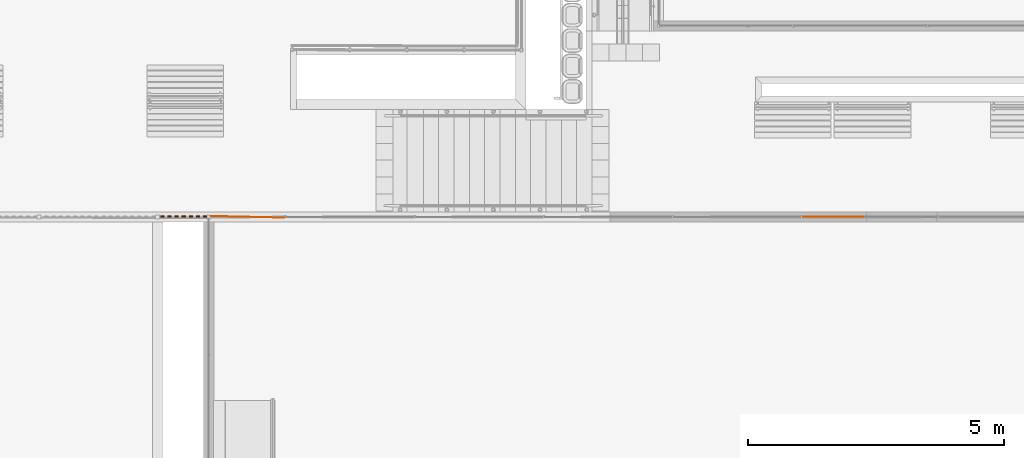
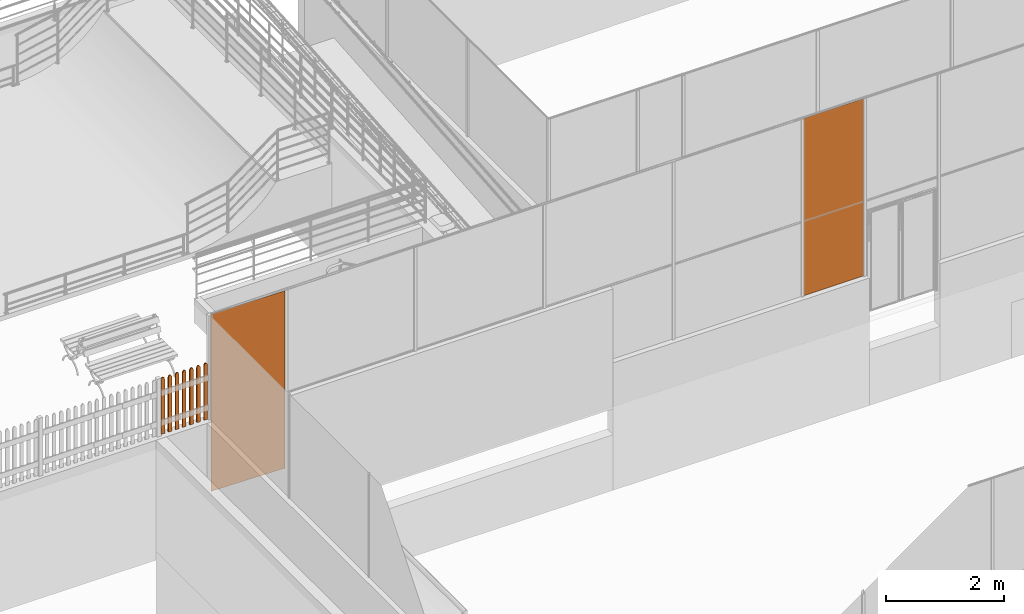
# One storey, part 212 of 237: 9 proxies.
"""IFC2X3 building model written with IfcOpenShell, lengths in millimetres."""

from ifc_helpers import new_model, entity, si_unit, converted_unit, derived_unit, money_unit, direction, frame, origin_with_axes, place, context, subcontext, project, spatial, open_shell, faceted_brep, surface_model, type_object, element, save


model = new_model("IFC2X3")

# Units and contexts
model_context = context("Model", 3, precision=0.01, world=origin_with_axes(), true_north=direction((0.0, 1.0)))
body_context = subcontext(model_context, "Body", "Model", "MODEL_VIEW")
ifc_project = project(units=[si_unit("LENGTHUNIT", "METRE", prefix="MILLI"), si_unit("AREAUNIT", "SQUARE_METRE"), si_unit("VOLUMEUNIT", "CUBIC_METRE"), converted_unit("PLANEANGLEUNIT", "DEGREE", entity("IfcPlaneAngleMeasure", 0.0174532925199), si_unit("PLANEANGLEUNIT", "RADIAN"), dimensions=[0, 0, 0, 0, 0, 0, 0]), money_unit("USD"), converted_unit("TIMEUNIT", "Year", entity("IfcTimeMeasure", 31556926.0), si_unit("TIMEUNIT", "SECOND"), dimensions=[0, 0, 1, 0, 0, 0, 0]), si_unit("MASSUNIT", "GRAM", prefix="KILO"), si_unit("THERMODYNAMICTEMPERATUREUNIT", "DEGREE_CELSIUS"), si_unit("LUMINOUSINTENSITYUNIT", "LUMEN"), si_unit("ENERGYUNIT", "JOULE", prefix="MEGA"), derived_unit("THERMALCONDUCTANCEUNIT", [(si_unit("POWERUNIT", "WATT"), 1), (si_unit("LENGTHUNIT", "METRE"), -1), (si_unit("THERMODYNAMICTEMPERATUREUNIT", "KELVIN"), -1)]), derived_unit("SPECIFICHEATCAPACITYUNIT", [(si_unit("ENERGYUNIT", "JOULE"), 1), (si_unit("MASSUNIT", "GRAM", prefix="KILO"), -1), (si_unit("THERMODYNAMICTEMPERATUREUNIT", "KELVIN"), -1)]), derived_unit("MASSDENSITYUNIT", [(si_unit("MASSUNIT", "GRAM", prefix="KILO"), 1), (si_unit("VOLUMEUNIT", "CUBIC_METRE"), -1)])], contexts=[model_context])

# Site, building, storey
site_placement = place(None, origin_with_axes())
site = spatial("IfcSite", under=ifc_project, at=site_placement, Name="Local", CompositionType="ELEMENT")
building_placement = place(site_placement, origin_with_axes())
building = spatial("IfcBuilding", under=site, at=building_placement, Name="Construção", CompositionType="ELEMENT")
storey_placement = place(building_placement, origin_with_axes())
storey = spatial("IfcBuildingStorey", under=building, at=storey_placement, Name="Pavimento Térreo", CompositionType="ELEMENT", Elevation=0.0)

# Proxies
building_element_proxy_type_1 = type_object("IfcBuildingElementProxyType", Name="Tela metalica1", PredefinedType="NOTDEFINED")
proxy_1_placement = place(storey_placement, frame((59511.6965714, 23490.6989077, -2705.59649696), z_axis=(0.0, 0.0, 1.0), x_axis=(0.999352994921, 0.0359665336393, 0.0)))
element("IfcBuildingElementProxy", 1, at=proxy_1_placement, inside=storey, type_object=building_element_proxy_type_1, Name="Objeto-0044", context=body_context, shape_type="SurfaceModel", body=[
    surface_model("IfcShellBasedSurfaceModel", [(1430.0, 0.0, 3672.01860279), (0.0, 84.0423930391, 3672.01860279), (0.0, 84.0423930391, 0.0), (1430.0, 0.0, 0.0)], [open_shell([[[0, 1, 2, 3]]])]),
])
proxy_2_placement = place(storey_placement, frame((71104.0348171, 23474.3617651, -2705.59649696), z_axis=(0.0, 0.0, 1.0), x_axis=(0.997402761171, 0.072025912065, 0.0)))
element("IfcBuildingElementProxy", 2, at=proxy_2_placement, inside=storey, type_object=building_element_proxy_type_1, Name="Objeto-0044", context=body_context, shape_type="SurfaceModel", body=[
    surface_model("IfcShellBasedSurfaceModel", [(1170.0, 0.0, 3672.01860279), (0.0, 84.0423930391, 3672.01860279), (0.0, 84.0423930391, 0.0), (1170.0, 0.0, 0.0)], [open_shell([[[0, 1, 2, 3]]])]),
])
building_element_proxy_type_2 = type_object("IfcBuildingElementProxyType", Name="FALTA", PredefinedType="NOTDEFINED")
proxy_3_placement = place(storey_placement, frame((59431.6965585, 23580.2435218, -1173.86351895), z_axis=(0.0, 0.0, 1.0), x_axis=(-1.0, 0.0, 0.0)))
element("IfcBuildingElementProxy", 3, at=proxy_3_placement, inside=storey, type_object=building_element_proxy_type_2, Name="Objeto-0044", context=body_context, shape_type="Brep", body=[
    faceted_brep([(558.741959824, 0.0, 0.0), (558.741959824, 0.0, 1122.55385596), (558.741959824, 23.3659780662, 1122.55385596), (558.741959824, 23.3659780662, 0.0), (628.644267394, 0.0, 0.0), (628.644267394, 0.0, 1122.55385596), (626.240793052, 0.0, 1135.71018716), (622.099081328, 0.0, 1147.58973535), (616.441654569, 0.0, 1157.55996586), (609.569092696, 0.0, 1165.08790963), (601.848382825, 0.0, 1169.77139955), (593.693113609, 0.0, 1171.36054535), (585.537844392, 0.0, 1169.77139955), (577.817134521, 0.0, 1165.08790963), (570.944572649, 0.0, 1157.55996586), (565.28714589, 0.0, 1147.58973535), (561.145434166, 0.0, 1135.71018716), (561.145434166, 23.3659780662, 1135.71018716), (565.28714589, 23.3659780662, 1147.58973535), (570.944572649, 23.3659780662, 1157.55996586), (577.817134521, 23.3659780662, 1165.08790963), (585.537844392, 23.3659780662, 1169.77139955), (593.693113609, 23.3659780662, 1171.36054535), (601.848382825, 23.3659780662, 1169.77139955), (609.569092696, 23.3659780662, 1165.08790963), (616.441654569, 23.3659780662, 1157.55996586), (622.099081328, 23.3659780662, 1147.58973535), (626.240793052, 23.3659780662, 1135.71018716), (628.644267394, 23.3659780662, 1122.55385596), (628.644267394, 23.3659780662, 0.0)], [[[0, 1, 2, 3]], [[1, 0, 4, 5, 6, 7, 8, 9, 10, 11, 12, 13, 14, 15, 16]], [[1, 16, 17, 2]], [[3, 2, 17, 18, 19, 20, 21, 22, 23, 24, 25, 26, 27, 28, 29]], [[0, 3, 29, 4]], [[5, 4, 29, 28]], [[6, 5, 28, 27]], [[7, 6, 27, 26]], [[25, 8, 7, 26]], [[9, 8, 25, 24]], [[10, 9, 24, 23]], [[11, 10, 23, 22]], [[22, 21, 12, 11]], [[13, 12, 21, 20]], [[14, 13, 20, 19]], [[15, 14, 19, 18]], [[16, 15, 18, 17]]]),
])
proxy_4_placement = place(storey_placement, frame((59431.6965585, 23580.2435218, -1173.86351895), z_axis=(0.0, 0.0, 1.0), x_axis=(-1.0, 0.0, 0.0)))
element("IfcBuildingElementProxy", 4, at=proxy_4_placement, inside=storey, type_object=building_element_proxy_type_2, Name="Objeto-0044", context=body_context, shape_type="Brep", body=[
    faceted_brep([(279.132729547, 0.0, 0.0), (279.132729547, 0.0, 1122.55385596), (279.132729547, 23.3659780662, 1122.55385596), (279.132729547, 23.3659780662, 0.0), (349.035037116, 0.0, 0.0), (349.035037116, 0.0, 1122.55385596), (346.631562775, 0.0, 1135.71018716), (342.489851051, 0.0, 1147.58973535), (336.832424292, 0.0, 1157.55996586), (329.959862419, 0.0, 1165.08790963), (322.239152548, 0.0, 1169.77139955), (314.083883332, 0.0, 1171.36054535), (305.928614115, 0.0, 1169.77139955), (298.207904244, 0.0, 1165.08790963), (291.335342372, 0.0, 1157.55996586), (285.677915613, 0.0, 1147.58973535), (281.536203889, 0.0, 1135.71018716), (281.536203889, 23.3659780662, 1135.71018716), (285.677915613, 23.3659780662, 1147.58973535), (291.335342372, 23.3659780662, 1157.55996586), (298.207904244, 23.3659780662, 1165.08790963), (305.928614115, 23.3659780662, 1169.77139955), (314.083883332, 23.3659780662, 1171.36054535), (322.239152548, 23.3659780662, 1169.77139955), (329.959862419, 23.3659780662, 1165.08790963), (336.832424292, 23.3659780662, 1157.55996586), (342.489851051, 23.3659780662, 1147.58973535), (346.631562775, 23.3659780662, 1135.71018716), (349.035037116, 23.3659780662, 1122.55385596), (349.035037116, 23.3659780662, 0.0)], [[[0, 1, 2, 3]], [[1, 0, 4, 5, 6, 7, 8, 9, 10, 11, 12, 13, 14, 15, 16]], [[1, 16, 17, 2]], [[3, 2, 17, 18, 19, 20, 21, 22, 23, 24, 25, 26, 27, 28, 29]], [[0, 3, 29, 4]], [[5, 4, 29, 28]], [[6, 5, 28, 27]], [[7, 6, 27, 26]], [[25, 8, 7, 26]], [[9, 8, 25, 24]], [[10, 9, 24, 23]], [[22, 11, 10, 23]], [[12, 11, 22, 21]], [[13, 12, 21, 20]], [[14, 13, 20, 19]], [[15, 14, 19, 18]], [[16, 15, 18, 17]]]),
])
proxy_5_placement = place(storey_placement, frame((59431.6965585, 23580.2435218, -1173.86351895), z_axis=(0.0, 0.0, 1.0), x_axis=(-1.0, 0.0, 0.0)))
element("IfcBuildingElementProxy", 5, at=proxy_5_placement, inside=storey, type_object=building_element_proxy_type_2, Name="Objeto-0044", context=body_context, shape_type="Brep", body=[
    faceted_brep([(140.573540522, 0.0, 0.0), (140.573540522, 0.0, 1122.55385596), (140.573540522, 23.3659780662, 1122.55385596), (140.573540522, 23.3659780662, 0.0), (210.475848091, 0.0, 0.0), (210.475848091, 0.0, 1122.55385596), (208.072373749, 0.0, 1135.71018716), (203.930662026, 0.0, 1147.58973535), (198.273235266, 0.0, 1157.55996586), (191.400673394, 0.0, 1165.08790963), (183.679963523, 0.0, 1169.77139955), (175.524694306, 0.0, 1171.36054535), (167.36942509, 0.0, 1169.77139955), (159.648715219, 0.0, 1165.08790963), (152.776153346, 0.0, 1157.55996586), (147.118726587, 0.0, 1147.58973535), (142.977014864, 0.0, 1135.71018716), (142.977014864, 23.3659780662, 1135.71018716), (147.118726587, 23.3659780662, 1147.58973535), (152.776153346, 23.3659780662, 1157.55996586), (159.648715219, 23.3659780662, 1165.08790963), (167.36942509, 23.3659780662, 1169.77139955), (175.524694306, 23.3659780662, 1171.36054535), (183.679963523, 23.3659780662, 1169.77139955), (191.400673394, 23.3659780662, 1165.08790963), (198.273235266, 23.3659780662, 1157.55996586), (203.930662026, 23.3659780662, 1147.58973535), (208.072373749, 23.3659780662, 1135.71018716), (210.475848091, 23.3659780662, 1122.55385596), (210.475848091, 23.3659780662, 0.0)], [[[0, 1, 2, 3]], [[1, 0, 4, 5, 6, 7, 8, 9, 10, 11, 12, 13, 14, 15, 16]], [[1, 16, 17, 2]], [[3, 2, 17, 18, 19, 20, 21, 22, 23, 24, 25, 26, 27, 28, 29]], [[0, 3, 29, 4]], [[5, 4, 29, 28]], [[6, 5, 28, 27]], [[7, 6, 27, 26]], [[25, 8, 7, 26]], [[9, 8, 25, 24]], [[10, 9, 24, 23]], [[22, 11, 10, 23]], [[22, 21, 12, 11]], [[13, 12, 21, 20]], [[14, 13, 20, 19]], [[15, 14, 19, 18]], [[16, 15, 18, 17]]]),
])
proxy_6_placement = place(storey_placement, frame((59431.6965585, 23580.2435218, -1173.86351895), z_axis=(0.0, 0.0, 1.0), x_axis=(-1.0, 0.0, 0.0)))
element("IfcBuildingElementProxy", 6, at=proxy_6_placement, inside=storey, type_object=building_element_proxy_type_2, Name="Objeto-0044", context=body_context, shape_type="Brep", body=[
    faceted_brep([(837.874689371, 0.0, 0.0), (837.874689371, 0.0, 1122.55385596), (837.874689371, 23.3659780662, 1122.55385596), (837.874689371, 23.3659780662, 0.0), (907.776996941, 0.0, 0.0), (907.776996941, 0.0, 1122.55385596), (905.373522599, 0.0, 1135.71018716), (901.231810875, 0.0, 1147.58973535), (895.574384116, 0.0, 1157.55996586), (888.701822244, 0.0, 1165.08790963), (880.981112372, 0.0, 1169.77139955), (872.825843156, 0.0, 1171.36054535), (864.67057394, 0.0, 1169.77139955), (856.949864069, 0.0, 1165.08790963), (850.077302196, 0.0, 1157.55996586), (844.419875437, 0.0, 1147.58973535), (840.278163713, 0.0, 1135.71018716), (840.278163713, 23.3659780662, 1135.71018716), (844.419875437, 23.3659780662, 1147.58973535), (850.077302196, 23.3659780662, 1157.55996586), (856.949864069, 23.3659780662, 1165.08790963), (864.67057394, 23.3659780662, 1169.77139955), (872.825843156, 23.3659780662, 1171.36054535), (880.981112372, 23.3659780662, 1169.77139955), (888.701822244, 23.3659780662, 1165.08790963), (895.574384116, 23.3659780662, 1157.55996586), (901.231810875, 23.3659780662, 1147.58973535), (905.373522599, 23.3659780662, 1135.71018716), (907.776996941, 23.3659780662, 1122.55385596), (907.776996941, 23.3659780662, 0.0)], [[[0, 1, 2, 3]], [[1, 0, 4, 5, 6, 7, 8, 9, 10, 11, 12, 13, 14, 15, 16]], [[1, 16, 17, 2]], [[3, 2, 17, 18, 19, 20, 21, 22, 23, 24, 25, 26, 27, 28, 29]], [[0, 3, 29, 4]], [[5, 4, 29, 28]], [[6, 5, 28, 27]], [[7, 6, 27, 26]], [[25, 8, 7, 26]], [[9, 8, 25, 24]], [[10, 9, 24, 23]], [[11, 10, 23, 22]], [[22, 21, 12, 11]], [[13, 12, 21, 20]], [[14, 13, 20, 19]], [[15, 14, 19, 18]], [[16, 15, 18, 17]]]),
])
proxy_7_placement = place(storey_placement, frame((59431.6965585, 23580.2435218, -1173.86351895), z_axis=(0.0, 0.0, 1.0), x_axis=(-1.0, 0.0, 0.0)))
element("IfcBuildingElementProxy", 7, at=proxy_7_placement, inside=storey, type_object=building_element_proxy_type_2, Name="Objeto-0044", context=body_context, shape_type="Brep", body=[
    faceted_brep([(418.937344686, 0.0, 0.0), (418.937344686, 0.0, 1122.55385596), (418.937344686, 23.3659780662, 1122.55385596), (418.937344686, 23.3659780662, 0.0), (488.839652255, 0.0, 0.0), (488.839652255, 0.0, 1122.55385596), (486.436177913, 0.0, 1135.71018716), (482.29446619, 0.0, 1147.58973535), (476.63703943, 0.0, 1157.55996586), (469.764477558, 0.0, 1165.08790963), (462.043767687, 0.0, 1169.77139955), (453.88849847, 0.0, 1171.36054535), (445.733229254, 0.0, 1169.77139955), (438.012519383, 0.0, 1165.08790963), (431.13995751, 0.0, 1157.55996586), (425.482530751, 0.0, 1147.58973535), (421.340819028, 0.0, 1135.71018716), (421.340819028, 23.3659780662, 1135.71018716), (425.482530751, 23.3659780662, 1147.58973535), (431.13995751, 23.3659780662, 1157.55996586), (438.012519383, 23.3659780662, 1165.08790963), (445.733229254, 23.3659780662, 1169.77139955), (453.88849847, 23.3659780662, 1171.36054535), (462.043767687, 23.3659780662, 1169.77139955), (469.764477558, 23.3659780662, 1165.08790963), (476.63703943, 23.3659780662, 1157.55996586), (482.29446619, 23.3659780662, 1147.58973535), (486.436177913, 23.3659780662, 1135.71018716), (488.839652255, 23.3659780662, 1122.55385596), (488.839652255, 23.3659780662, 0.0)], [[[0, 1, 2, 3]], [[1, 0, 4, 5, 6, 7, 8, 9, 10, 11, 12, 13, 14, 15, 16]], [[1, 16, 17, 2]], [[3, 2, 17, 18, 19, 20, 21, 22, 23, 24, 25, 26, 27, 28, 29]], [[0, 3, 29, 4]], [[5, 4, 29, 28]], [[6, 5, 28, 27]], [[7, 6, 27, 26]], [[25, 8, 7, 26]], [[9, 8, 25, 24]], [[10, 9, 24, 23]], [[22, 11, 10, 23]], [[22, 21, 12, 11]], [[13, 12, 21, 20]], [[14, 13, 20, 19]], [[15, 14, 19, 18]], [[16, 15, 18, 17]]]),
])
proxy_8_placement = place(storey_placement, frame((59431.6965585, 23580.2435218, -1173.86351895), z_axis=(0.0, 0.0, 1.0), x_axis=(-1.0, 0.0, 0.0)))
element("IfcBuildingElementProxy", 8, at=proxy_8_placement, inside=storey, type_object=building_element_proxy_type_2, Name="Objeto-0044", context=body_context, shape_type="Brep", body=[
    faceted_brep([(0.0, 0.0, 0.0), (0.0, 0.0, 1122.55385596), (0.0, 23.3659780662, 1122.55385596), (0.0, 23.3659780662, 0.0), (69.9023075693, 0.0, 0.0), (69.9023075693, 0.0, 1122.55385596), (67.4988332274, 0.0, 1135.71018716), (63.3571215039, 0.0, 1147.58973535), (57.6996947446, 0.0, 1157.55996586), (50.8271328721, 0.0, 1165.08790963), (43.1064230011, 0.0, 1169.77139955), (34.9511537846, 0.0, 1171.36054535), (26.7958845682, 0.0, 1169.77139955), (19.0751746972, 0.0, 1165.08790963), (12.2026128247, 0.0, 1157.55996586), (6.5451860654, 0.0, 1147.58973535), (2.40347434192, 0.0, 1135.71018716), (2.40347434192, 23.3659780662, 1135.71018716), (6.5451860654, 23.3659780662, 1147.58973535), (12.2026128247, 23.3659780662, 1157.55996586), (19.0751746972, 23.3659780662, 1165.08790963), (26.7958845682, 23.3659780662, 1169.77139955), (34.9511537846, 23.3659780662, 1171.36054535), (43.1064230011, 23.3659780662, 1169.77139955), (50.8271328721, 23.3659780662, 1165.08790963), (57.6996947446, 23.3659780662, 1157.55996586), (63.3571215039, 23.3659780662, 1147.58973535), (67.4988332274, 23.3659780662, 1135.71018716), (69.9023075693, 23.3659780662, 1122.55385596), (69.9023075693, 23.3659780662, 0.0)], [[[0, 1, 2, 3]], [[1, 0, 4, 5, 6, 7, 8, 9, 10, 11, 12, 13, 14, 15, 16]], [[1, 16, 17, 2]], [[3, 2, 17, 18, 19, 20, 21, 22, 23, 24, 25, 26, 27, 28, 29]], [[0, 3, 29, 4]], [[5, 4, 29, 28]], [[6, 5, 28, 27]], [[7, 6, 27, 26]], [[25, 8, 7, 26]], [[9, 8, 25, 24]], [[10, 9, 24, 23]], [[22, 11, 10, 23]], [[12, 11, 22, 21]], [[13, 12, 21, 20]], [[14, 13, 20, 19]], [[15, 14, 19, 18]], [[16, 15, 18, 17]]]),
])
proxy_9_placement = place(storey_placement, frame((59431.6965585, 23580.2435218, -1173.86351895), z_axis=(0.0, 0.0, 1.0), x_axis=(-1.0, 0.0, 0.0)))
element("IfcBuildingElementProxy", 9, at=proxy_9_placement, inside=storey, type_object=building_element_proxy_type_2, Name="Objeto-0044", context=body_context, shape_type="Brep", body=[
    faceted_brep([(699.315500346, 0.0, 0.0), (699.315500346, 0.0, 1122.55385596), (699.315500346, 23.3659780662, 1122.55385596), (699.315500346, 23.3659780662, 0.0), (769.217807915, 0.0, 0.0), (769.217807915, 0.0, 1122.55385596), (766.814333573, 0.0, 1135.71018716), (762.67262185, 0.0, 1147.58973535), (757.015195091, 0.0, 1157.55996586), (750.142633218, 0.0, 1165.08790963), (742.421923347, 0.0, 1169.77139955), (734.266654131, 0.0, 1171.36054535), (726.111384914, 0.0, 1169.77139955), (718.390675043, 0.0, 1165.08790963), (711.518113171, 0.0, 1157.55996586), (705.860686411, 0.0, 1147.58973535), (701.718974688, 0.0, 1135.71018716), (701.718974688, 23.3659780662, 1135.71018716), (705.860686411, 23.3659780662, 1147.58973535), (711.518113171, 23.3659780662, 1157.55996586), (718.390675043, 23.3659780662, 1165.08790963), (726.111384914, 23.3659780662, 1169.77139955), (734.266654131, 23.3659780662, 1171.36054535), (742.421923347, 23.3659780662, 1169.77139955), (750.142633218, 23.3659780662, 1165.08790963), (757.015195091, 23.3659780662, 1157.55996586), (762.67262185, 23.3659780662, 1147.58973535), (766.814333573, 23.3659780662, 1135.71018716), (769.217807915, 23.3659780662, 1122.55385596), (769.217807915, 23.3659780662, 0.0)], [[[0, 1, 2, 3]], [[1, 0, 4, 5, 6, 7, 8, 9, 10, 11, 12, 13, 14, 15, 16]], [[1, 16, 17, 2]], [[3, 2, 17, 18, 19, 20, 21, 22, 23, 24, 25, 26, 27, 28, 29]], [[0, 3, 29, 4]], [[5, 4, 29, 28]], [[6, 5, 28, 27]], [[7, 6, 27, 26]], [[25, 8, 7, 26]], [[9, 8, 25, 24]], [[10, 9, 24, 23]], [[22, 11, 10, 23]], [[12, 11, 22, 21]], [[13, 12, 21, 20]], [[14, 13, 20, 19]], [[15, 14, 19, 18]], [[16, 15, 18, 17]]]),
])

save(model, "model.ifc")
